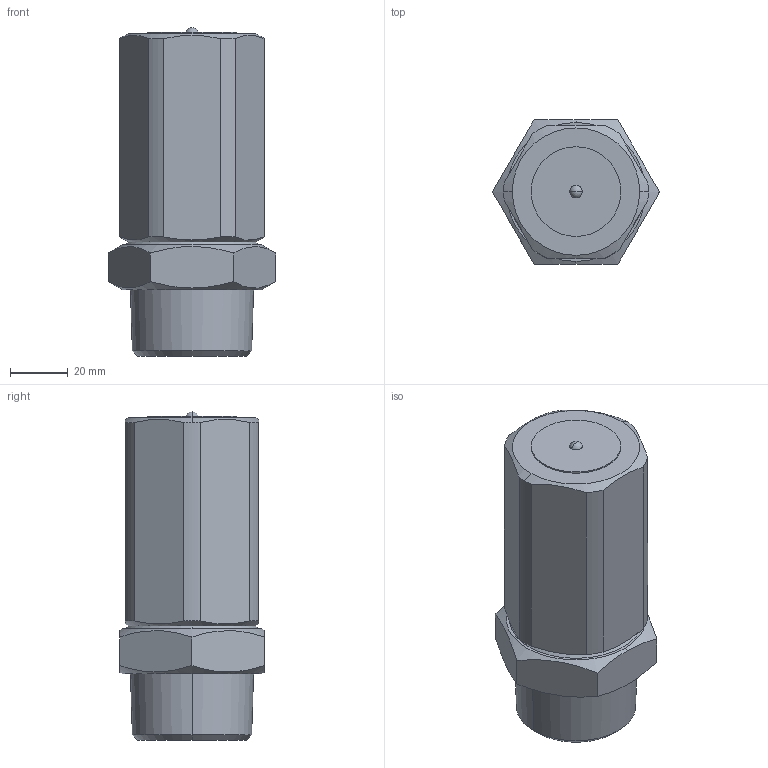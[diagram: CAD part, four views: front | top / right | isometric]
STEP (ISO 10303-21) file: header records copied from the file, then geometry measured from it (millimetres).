
FILE_DESCRIPTION( (''), '2;1');
FILE_NAME ('PC1027.10420.VB-7　32A_8056.stp','2025-07-29T11:57:40',(''),(''),'spGate 20.6.3 (****-****-****-****)','','');
FILE_SCHEMA (('AUTOMOTIVE_DESIGN'));
Length unit declared in the file: millimetre
Bounding box: 57.73 x 50 x 113.5 mm (x, y, z)
Volume: 196097.3 mm3; surface area: 20951.8 mm2
Topology: 1 solids, 1 shells, 41 faces, 106 edges, 69 vertices
Faces by surface type: plane 17, bspline 14, cylinder 8, sphere 2
Entity records: 2359 total; most frequent: CARTESIAN_POINT 652, ORIENTED_EDGE 208, DIRECTION 152, COLOUR_RGB 146, PRESENTATION_STYLE_ASSIGNMENT 146, STYLED_ITEM 146, EDGE_CURVE 104, DRAUGHTING_PRE_DEFINED_CURVE_FONT 104
